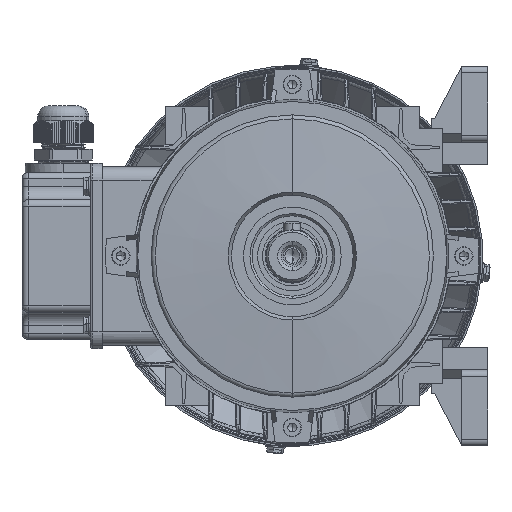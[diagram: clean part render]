
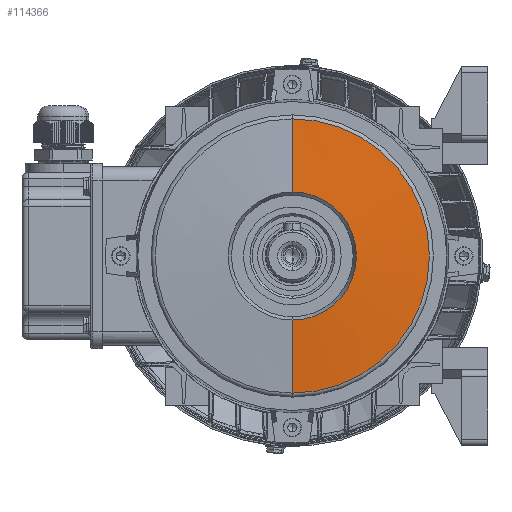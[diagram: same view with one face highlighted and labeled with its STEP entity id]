
A CAD part, left-side view. The second image highlights one B-rep face of the part: STEP entity #114366.
In plain terms, the highlighted conical face has half-angle 85.5 degrees and reference radius 63.157 mm.
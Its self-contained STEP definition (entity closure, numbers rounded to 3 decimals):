
#5804 = VERTEX_POINT ( 'NONE', #58383 ) ;
#13998 = CARTESIAN_POINT ( 'NONE',  ( -7.351, 0., -63.157 ) ) ;
#14646 = DIRECTION ( 'NONE',  ( -1., 0., 0. ) ) ;
#22132 = ORIENTED_EDGE ( 'NONE', *, *, #63662, .T. ) ;
#26926 = DIRECTION ( 'NONE',  ( 0.078, 0., 0.997 ) ) ;
#27445 = CIRCLE ( 'NONE', #43123, 29.5 ) ;
#28678 = FACE_OUTER_BOUND ( 'NONE', #131942, .T. ) ;
#33018 = VERTEX_POINT ( 'NONE', #107372 ) ;
#35300 = EDGE_CURVE ( 'NONE', #122979, #33018, #116720, .T. ) ;
#42884 = AXIS2_PLACEMENT_3D ( 'NONE', #61172, #60728, #49663 ) ;
#43123 = AXIS2_PLACEMENT_3D ( 'NONE', #119012, #14646, #77180 ) ;
#49663 = DIRECTION ( 'NONE',  ( 0., 0., 1. ) ) ;
#50033 = CONICAL_SURFACE ( 'NONE', #113976, 63.157, 1.492 ) ;
#57429 = CIRCLE ( 'NONE', #42884, 63.157 ) ;
#58383 = CARTESIAN_POINT ( 'NONE',  ( -7.351, 0., 63.157 ) ) ;
#59452 = LINE ( 'NONE', #130809, #112053 ) ;
#60728 = DIRECTION ( 'NONE',  ( -1., 0., 0. ) ) ;
#61172 = CARTESIAN_POINT ( 'NONE',  ( -7.351, 0., 0. ) ) ;
#63662 = EDGE_CURVE ( 'NONE', #33018, #5804, #57429, .T. ) ;
#75545 = CARTESIAN_POINT ( 'NONE',  ( -10., 0., -29.5 ) ) ;
#76383 = EDGE_CURVE ( 'NONE', #122979, #107914, #27445, .T. ) ;
#77180 = DIRECTION ( 'NONE',  ( 0., 0., 1. ) ) ;
#78481 = CARTESIAN_POINT ( 'NONE',  ( -7.351, 0., 0. ) ) ;
#78924 = DIRECTION ( 'NONE',  ( 0., 0., -1. ) ) ;
#85128 = CARTESIAN_POINT ( 'NONE',  ( -10., 0., 29.5 ) ) ;
#85658 = EDGE_CURVE ( 'NONE', #107914, #5804, #59452, .T. ) ;
#99615 = DIRECTION ( 'NONE',  ( 1., 0., 0. ) ) ;
#103476 = VECTOR ( 'NONE', #119692, 1000. ) ;
#104310 = ORIENTED_EDGE ( 'NONE', *, *, #85658, .F. ) ;
#107372 = CARTESIAN_POINT ( 'NONE',  ( -7.351, 0., -63.157 ) ) ;
#107914 = VERTEX_POINT ( 'NONE', #85128 ) ;
#112053 = VECTOR ( 'NONE', #26926, 1000. ) ;
#113976 = AXIS2_PLACEMENT_3D ( 'NONE', #78481, #99615, #78924 ) ;
#114366 = ADVANCED_FACE ( 'NONE', ( #28678 ), #50033, .T. ) ;
#115314 = ORIENTED_EDGE ( 'NONE', *, *, #35300, .T. ) ;
#116720 = LINE ( 'NONE', #13998, #103476 ) ;
#119012 = CARTESIAN_POINT ( 'NONE',  ( -10., 0., 0. ) ) ;
#119692 = DIRECTION ( 'NONE',  ( 0.078, 0., -0.997 ) ) ;
#122979 = VERTEX_POINT ( 'NONE', #75545 ) ;
#130809 = CARTESIAN_POINT ( 'NONE',  ( -7.351, 0., 63.157 ) ) ;
#131942 = EDGE_LOOP ( 'NONE', ( #104310, #132420, #115314, #22132 ) ) ;
#132420 = ORIENTED_EDGE ( 'NONE', *, *, #76383, .F. ) ;
